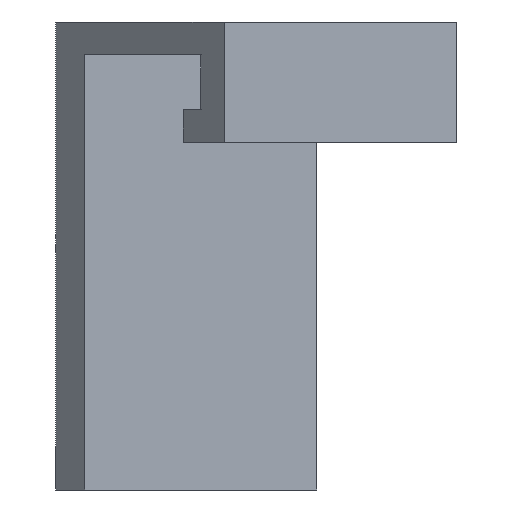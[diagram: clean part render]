
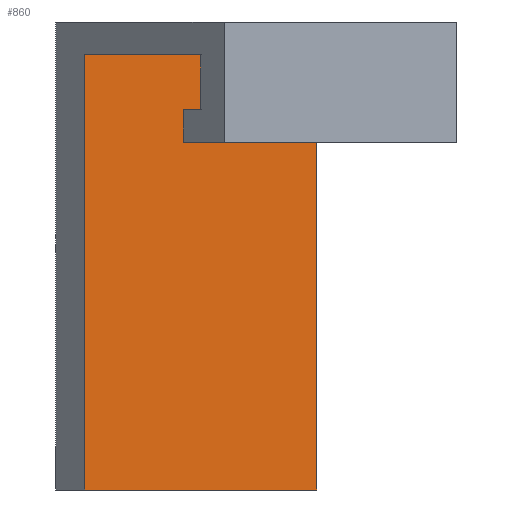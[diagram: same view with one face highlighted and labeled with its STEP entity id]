
A CAD part, front view. The second image highlights one B-rep face of the part: STEP entity #860.
In plain terms, the highlighted planar face has unit normal (0.707, -0.707, 0).
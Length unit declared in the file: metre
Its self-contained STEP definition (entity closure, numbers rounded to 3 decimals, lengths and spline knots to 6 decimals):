
#79=ORIENTED_EDGE('',*,*,#326,.F.);
#80=ORIENTED_EDGE('',*,*,#309,.F.);
#81=ORIENTED_EDGE('',*,*,#327,.T.);
#82=ORIENTED_EDGE('',*,*,#312,.T.);
#309=EDGE_CURVE('',#436,#437,#520,.T.);
#312=EDGE_CURVE('',#440,#439,#523,.T.);
#326=EDGE_CURVE('',#437,#439,#537,.T.);
#327=EDGE_CURVE('',#436,#440,#538,.T.);
#436=VERTEX_POINT('',#1254);
#437=VERTEX_POINT('',#1256);
#439=VERTEX_POINT('',#1261);
#440=VERTEX_POINT('',#1263);
#520=LINE('',#1255,#621);
#523=LINE('',#1262,#624);
#537=LINE('',#1289,#638);
#538=LINE('',#1291,#639);
#621=VECTOR('',#1005,1.);
#624=VECTOR('',#1010,1.);
#638=VECTOR('',#1030,1.);
#639=VECTOR('',#1033,1.);
#725=EDGE_LOOP('',(#79,#80,#81,#82));
#776=FACE_BOUND('',#725,.T.);
#827=PLANE('',#931);
#860=ADVANCED_FACE('',(#776),#827,.T.);
#931=AXIS2_PLACEMENT_3D('',#1290,#1031,#1032);
#1005=DIRECTION('',(-0.707,-0.707,0.));
#1010=DIRECTION('',(-0.707,-0.707,0.));
#1030=DIRECTION('',(0.,0.,1.));
#1031=DIRECTION('',(0.707,-0.707,0.));
#1032=DIRECTION('',(0.,0.,-1.));
#1033=DIRECTION('',(0.,0.,1.));
#1254=CARTESIAN_POINT('',(0.03482,0.029749,-0.013));
#1255=CARTESIAN_POINT('',(0.00795,0.002879,-0.013));
#1256=CARTESIAN_POINT('',(0.006536,0.001464,-0.013));
#1261=CARTESIAN_POINT('',(0.006536,0.001464,0.04));
#1262=CARTESIAN_POINT('',(0.00795,0.002879,0.04));
#1263=CARTESIAN_POINT('',(0.03482,0.029749,0.04));
#1289=CARTESIAN_POINT('',(0.006536,0.001464,0.041));
#1290=CARTESIAN_POINT('',(0.00795,0.002879,0.041));
#1291=CARTESIAN_POINT('',(0.03482,0.029749,0.041));
